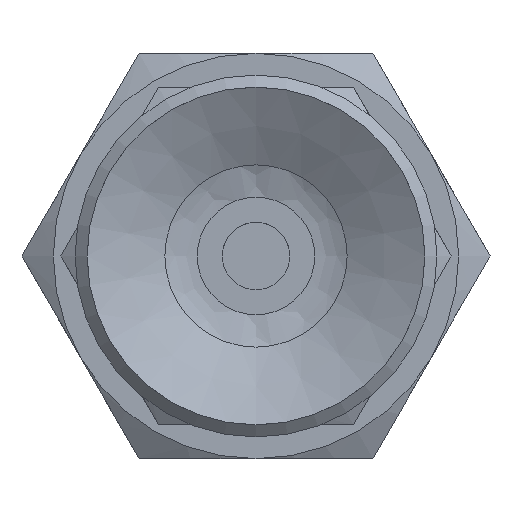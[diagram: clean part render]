
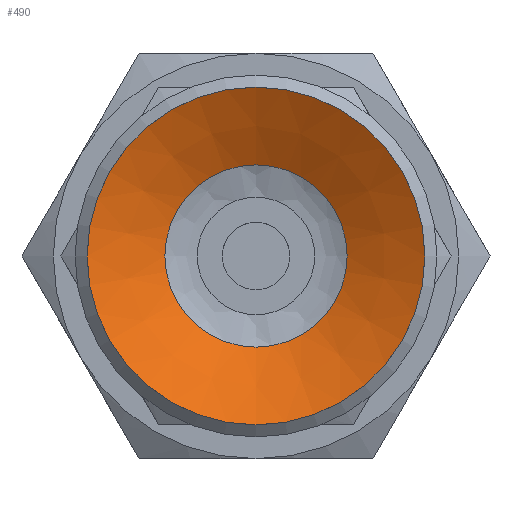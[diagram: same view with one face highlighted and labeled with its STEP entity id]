
A CAD part, front view. The second image highlights one B-rep face of the part: STEP entity #490.
In plain terms, the highlighted conical face has half-angle 61.39 degrees and reference radius 2.25 mm.
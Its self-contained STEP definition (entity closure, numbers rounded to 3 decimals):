
#490=ADVANCED_FACE('',(#734,#735),#736,.F.);
#734=FACE_BOUND('',#1003,.T.);
#735=FACE_OUTER_BOUND('',#1004,.T.);
#736=CONICAL_SURFACE('',#1005,2.25,1.071);
#1003=EDGE_LOOP('',(#1683));
#1004=EDGE_LOOP('',(#1684));
#1005=AXIS2_PLACEMENT_3D('',#1685,#1686,#1687);
#1683=ORIENTED_EDGE('',*,*,#1913,.T.);
#1684=ORIENTED_EDGE('',*,*,#1914,.T.);
#1685=CARTESIAN_POINT('',(0.0,1.5,0.0));
#1686=DIRECTION('',(-0.0,-1.0,0.));
#1687=DIRECTION('',(0.0,0.,-1.0));
#1913=EDGE_CURVE('',#2208,#2208,#2209,.T.);
#1914=EDGE_CURVE('',#2210,#2210,#2211,.T.);
#2208=VERTEX_POINT('',#2900);
#2209=CIRCLE('',#2901,2.698);
#2210=VERTEX_POINT('',#2902);
#2211=CIRCLE('',#2903,5.);
#2900=CARTESIAN_POINT('',(0.0,1.256,-2.698));
#2901=AXIS2_PLACEMENT_3D('',#3180,#3181,#3182);
#2902=CARTESIAN_POINT('',(0.0,0.,-5.));
#2903=AXIS2_PLACEMENT_3D('',#3183,#3184,#3185);
#3180=CARTESIAN_POINT('',(0.0,1.256,0.0));
#3181=DIRECTION('',(0.0,1.0,0.));
#3182=DIRECTION('',(0.0,0.,-1.0));
#3183=CARTESIAN_POINT('',(0.0,0.0,0.0));
#3184=DIRECTION('',(0.0,-1.0,0.));
#3185=DIRECTION('',(0.0,0.,-1.0));
